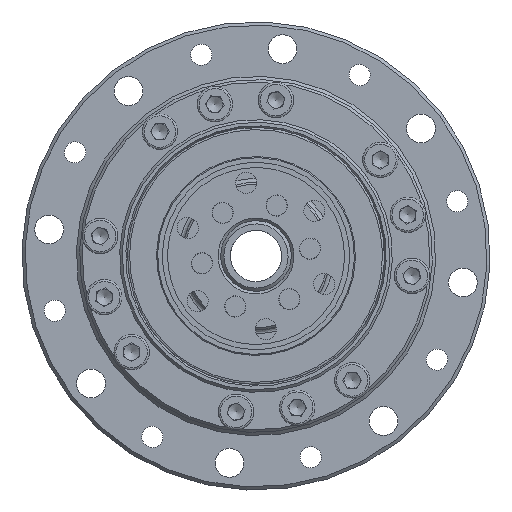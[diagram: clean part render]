
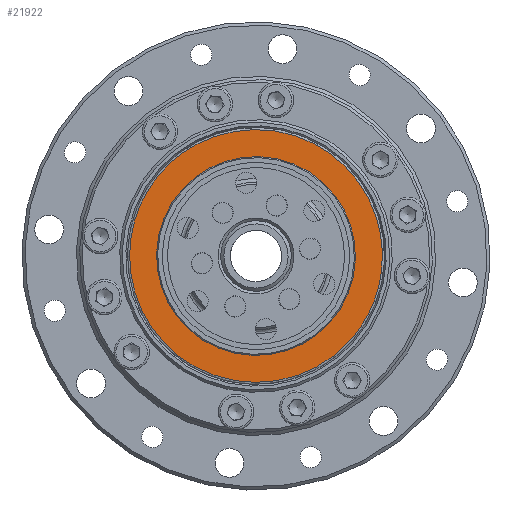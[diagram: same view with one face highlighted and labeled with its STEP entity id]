
A CAD part, left-side view. The second image highlights one B-rep face of the part: STEP entity #21922.
In plain terms, the highlighted planar face has unit normal (-1, 0, 0).
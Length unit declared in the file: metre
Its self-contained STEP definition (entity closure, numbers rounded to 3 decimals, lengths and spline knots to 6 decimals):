
#452 = DIRECTION ( 'NONE',  ( 0., 0.612, 0.791 ) ) ;
#2033 = DIRECTION ( 'NONE',  ( 0., 0.612, 0.791 ) ) ;
#2064 = CARTESIAN_POINT ( 'NONE',  ( -0.0248, 0.019126, -0.039682 ) ) ;
#4191 = CARTESIAN_POINT ( 'NONE',  ( -0.0248, -0.043221, 0.008509 ) ) ;
#4466 = AXIS2_PLACEMENT_3D ( 'NONE', #25205, #22895, #2033 ) ;
#7434 = ORIENTED_EDGE ( 'NONE', *, *, #9627, .F. ) ;
#8592 = CARTESIAN_POINT ( 'NONE',  ( -0.0248, 0.043221, -0.008509 ) ) ;
#9053 = CARTESIAN_POINT ( 'NONE',  ( -0.0248, -0.012048, -0.015587 ) ) ;
#9564 = CARTESIAN_POINT ( 'NONE',  ( -0.0248, 0., 0. ) ) ;
#9627 = EDGE_CURVE ( 'NONE', #15715, #15715, #13196, .T. ) ;
#11150 = FACE_OUTER_BOUND ( 'NONE', #14224, .T. ) ;
#11636 = VERTEX_POINT ( 'NONE', #14089 ) ;
#12070 =( BOUNDED_CURVE ( )  B_SPLINE_CURVE ( 3, ( #9053, #2064, #8592, #27210, #27671, #4191, #15932 ),
 .UNSPECIFIED., .T., .T. ) 
 B_SPLINE_CURVE_WITH_KNOTS ( ( 4, 3, 4 ),
 ( 0., 0.5, 1. ),
 .UNSPECIFIED. ) 
 CURVE ( )  GEOMETRIC_REPRESENTATION_ITEM ( )  RATIONAL_B_SPLINE_CURVE ( ( 1., 0.333, 0.333, 1., 0.333, 0.333, 1. ) ) 
 REPRESENTATION_ITEM ( '' )  );
#13196 = CIRCLE ( 'NONE', #29291, 0.0155 ) ;
#14089 = CARTESIAN_POINT ( 'NONE',  ( -0.0248, -0.012048, -0.015587 ) ) ;
#14224 = EDGE_LOOP ( 'NONE', ( #14720 ) ) ;
#14720 = ORIENTED_EDGE ( 'NONE', *, *, #23013, .F. ) ;
#15715 = VERTEX_POINT ( 'NONE', #29579 ) ;
#15932 = CARTESIAN_POINT ( 'NONE',  ( -0.0248, -0.012048, -0.015587 ) ) ;
#21316 = DIRECTION ( 'NONE',  ( -1., 0., 0. ) ) ;
#21922 = ADVANCED_FACE ( 'NONE', ( #11150, #29771 ), #27489, .F. ) ;
#22895 = DIRECTION ( 'NONE',  ( 1., 0., 0. ) ) ;
#23013 = EDGE_CURVE ( 'NONE', #11636, #11636, #12070, .T. ) ;
#25205 = CARTESIAN_POINT ( 'NONE',  ( -0.0248, -0.015587, 0.012048 ) ) ;
#27210 = CARTESIAN_POINT ( 'NONE',  ( -0.0248, 0.012048, 0.015587 ) ) ;
#27489 = PLANE ( 'NONE',  #4466 ) ;
#27671 = CARTESIAN_POINT ( 'NONE',  ( -0.0248, -0.019126, 0.039682 ) ) ;
#28002 = EDGE_LOOP ( 'NONE', ( #7434 ) ) ;
#29291 = AXIS2_PLACEMENT_3D ( 'NONE', #9564, #21316, #452 ) ;
#29579 = CARTESIAN_POINT ( 'NONE',  ( -0.0248, 0.009479, 0.012264 ) ) ;
#29771 = FACE_BOUND ( 'NONE', #28002, .T. ) ;
